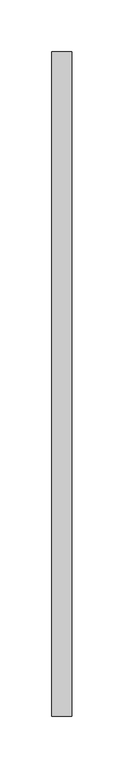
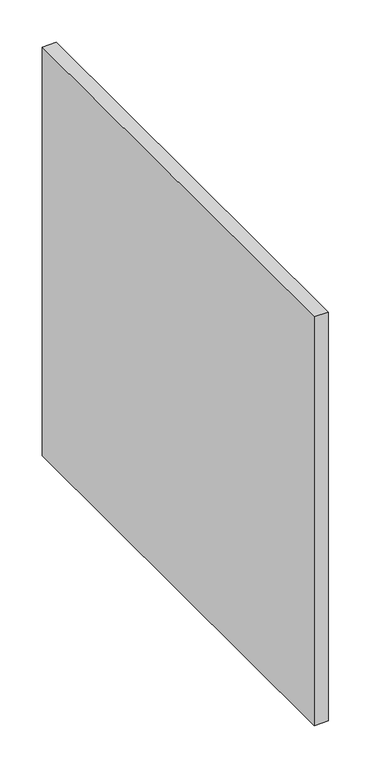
"""IFC4 building model written with IfcOpenShell, lengths in millimetres: proxy geometry, BASYS^CREDENZA 1_INTERNAL DETAILS-LT PART."""

from ifc_helpers import new_model, si_unit, frame, origin, place, context, project, spatial, polyline, outline, extrude, source, transform, mapped, element, save


def generic_models_123ce8f4(model_context):
    return source(origin(), model_context, "Body", "SweptSolid", [
        extrude(outline(polyline([(604.8375, -28.575), (623.8875, -28.575), (623.8875, -668.5), (604.8375, -668.5), (604.8375, -28.575)])), frame((0.0, 0.0, -615.95), z_axis=(0.0, 0.0, 1.0), x_axis=(1.0, 0.0, 0.0)), (0.0, 0.0, 1.0), 587.375),
    ])


if __name__ == "__main__":
    model = new_model("IFC4")
    model_context = context("Model", 3, world=origin())
    ifc_project = project(units=[si_unit("LENGTHUNIT", "METRE", prefix="MILLI")], contexts=[model_context])
    site = spatial("IfcSite", under=ifc_project)
    building = spatial("IfcBuilding", under=site)
    placement = place(None, origin())
    generic_models_shape = generic_models_123ce8f4(model_context)
    element("IfcBuildingElementProxy", 1, Name="BASYS^CREDENZA 1_INTERNAL DETAILS-LT PART", ObjectType="BASYS^CREDENZA 1_INTERNAL DETAILS-LT PART", at=placement, inside=building, context=model_context, shape_type="MappedRepresentation", body=[
        mapped(generic_models_shape, transform((0.0, 0.0, 0.0), x_axis=(1.0, 0.0, 0.0), y_axis=(0.0, 1.0, 0.0), z_axis=(0.0, 0.0, 1.0))),
    ])
    save(model, "model.ifc")
